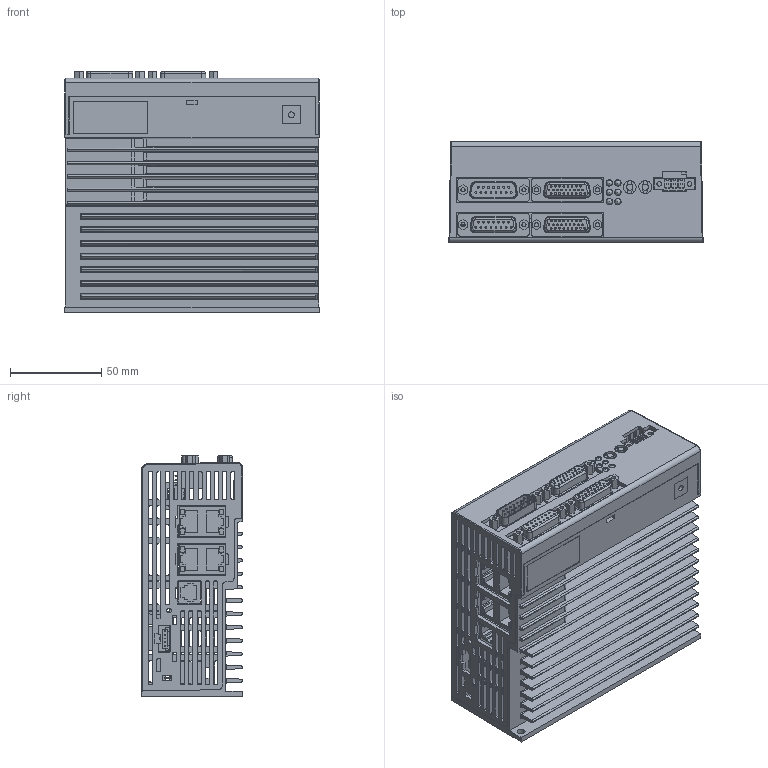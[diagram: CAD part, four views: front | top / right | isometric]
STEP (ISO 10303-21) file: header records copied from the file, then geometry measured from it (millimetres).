
FILE_DESCRIPTION((''),'2;1');
FILE_NAME('D:\PROJECTS\ACS\IDM-ICM\_SB-21000-XXX_LF-A2_lith.stp','2021-03-07T06:57:57',('YURI'),(''),'Autodesk Inventor 2012','Autodesk Inventor 2012','');
FILE_SCHEMA(('AUTOMOTIVE_DESIGN { 1 0 10303 214 1 1 1 1 }'));
Length unit declared in the file: millimetre
Products named in the file (32): _SB-21000-XXX_LF-A2_lith; Solid1-28; Solid1-2; Solid1-4; mstb_2.5_hc-4-gf-5.08_lith; _TSM-103-01-SH-A_lith; Solid1-14_lith; rj45x2; Defeatured3_lith; 768250004_lith; dtype26; dtype15p; Fillet3; Boss-Extrude1[2]; Boss-Extrude1[3]; Boss-Extrude1[4]; Boss-Extrude1[5]; Boss-Extrude1[6]; Boss-Extrude1[7]; Boss-Extrude1[8]; Boss-Extrude1[9]; Boss-Extrude1[10]; Boss-Extrude1[11]; Boss-Extrude1[12]; Boss-Extrude1[13]; Boss-Extrude1[14]; Boss-Extrude1[15]; Boss-Extrude1[16]; dtype15s; mc_1.5-3-gf-3.81_p14-thr_lith; _SB-21000-lith2; _SB-21000-lith1
Assembly tree (37 placements, depth 3):
  _SB-21000-XXX_LF-A2_lith
    Solid1-28  x3
    Solid1-2
    Solid1-4  x2
    mstb_2.5_hc-4-gf-5.08_lith
    _TSM-103-01-SH-A_lith  x2
    Solid1-14_lith
    rj45x2  x2
    Defeatured3_lith
    768250004_lith
    dtype26  x2
    dtype15p
      Fillet3
      Boss-Extrude1[2]
      Boss-Extrude1[3]
      Boss-Extrude1[4]
      Boss-Extrude1[5]
      Boss-Extrude1[6]
      Boss-Extrude1[7]
      Boss-Extrude1[8]
      Boss-Extrude1[9]
      Boss-Extrude1[10]
      Boss-Extrude1[11]
      Boss-Extrude1[12]
      Boss-Extrude1[13]
      Boss-Extrude1[14]
      Boss-Extrude1[15]
      Boss-Extrude1[16]
    dtype15s
    mc_1.5-3-gf-3.81_p14-thr_lith
    _SB-21000-lith2
    _SB-21000-lith1
Bounding box: 139 x 55 x 131.8 mm (x, y, z)
Volume: 191916.1 mm3; surface area: 170590.7 mm2
Topology: 36 solids, 36 shells, 2136 faces, 5873 edges, 3844 vertices
Faces by surface type: plane 1225, cylinder 797, cone 36, torus 36, bspline 21, revolution 15, sphere 6
Full cylindrical faces by diameter (mm): 0.7 x12, 0.889 x2, 0.9 x52, 1 x45, 2.261 x8, 2.5 x4, 3 x9, 3.242 x1, 3.4 x5, 3.518 x6, 4.4 x1, 5.5 x3
Entity records: 62172 total; most frequent: CARTESIAN_POINT 11308, DIRECTION 10452, ORIENTED_EDGE 10238, EDGE_CURVE 5119, VECTOR 3552, LINE 3552, AXIS2_PLACEMENT_3D 3445, VERTEX_POINT 3428
